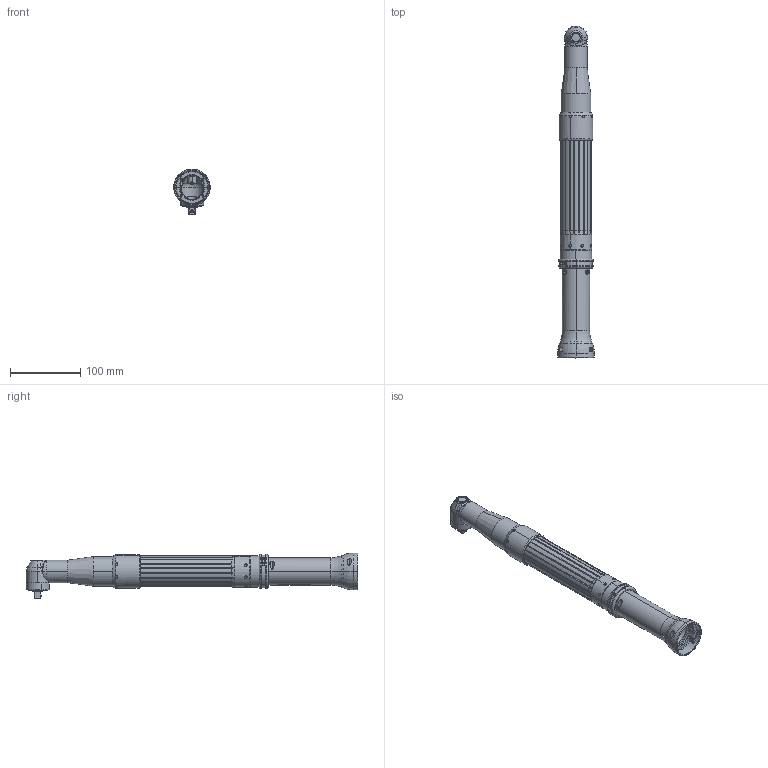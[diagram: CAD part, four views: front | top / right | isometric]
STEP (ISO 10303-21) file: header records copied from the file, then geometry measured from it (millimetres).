
FILE_DESCRIPTION (( 'STEP AP214' ), '1' );
FILE_NAME ('有线弯头拧紧工具（W).STEP', '2024-09-09T07:47:22', ( 'Windows 用户' ), ( 'Microsoft' ), 'SwSTEP 2.0', 'SolidWorks 2021', '' );
FILE_SCHEMA (( 'AUTOMOTIVE_DESIGN' ));
Length unit declared in the file: millimetre
Products named in the file (1): 有线弯头拧紧工具（W)
Bounding box: 52 x 471.5 x 65 mm (x, y, z)
Surface area: 74747.1 mm2 (no closed solid volume)
Topology: 0 solids, 60 shells, 412 faces, 1350 edges, 982 vertices
Faces by surface type: cylinder 184, plane 95, torus 63, bspline 35, cone 30, sphere 5
Entity records: 23917 total; most frequent: CARTESIAN_POINT 8037, DIRECTION 2401, ORIENTED_EDGE 2046, EDGE_CURVE 1345, VERTEX_POINT 981, AXIS2_PLACEMENT_3D 962, CIRCLE 584, VECTOR 477
